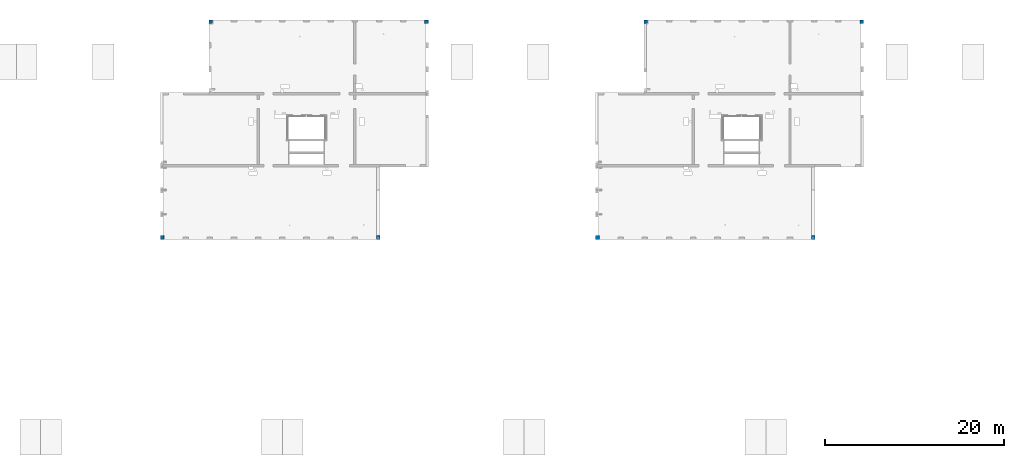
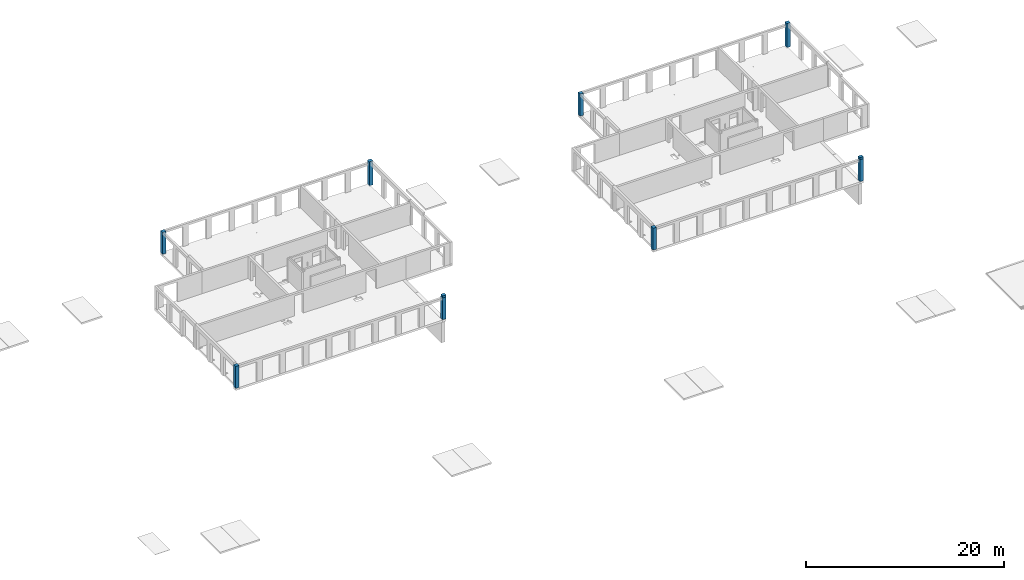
# One storey, part 1 of 14: 10 columns.
"""IFC2X3 building model written with IfcOpenShell, lengths in millimetres."""

import ifcopenshell
import ifcopenshell.guid

model = None  # the IFC model being written
_history = None  # IfcOwnerHistory: only IFC2X3 demands one
_inside = {}  # id of a spatial element -> (the spatial element, [elements in it])
_under = {}  # id of a project, library or spatial element -> (it, [spatial elements below it])
_declared = {}  # id of a project -> (the project, [libraries it declares])
_typed = {}  # id of a type object -> (the type object, [elements of that type])
_made_of = {}  # id of a material, layer set ... -> (it, [elements and type objects made of it])


def new_model(schema):
    """Start an empty IFC model of exactly this schema.

    Asked for "IFC4X3", IfcOpenShell would pick the latest addendum, in which some entities
    have other attributes; the version numbers below select the first issue.
    IFC2X3 requires an IfcOwnerHistory on every rooted entity: one is made here for all.
    """
    global model, _history
    if schema == "IFC4X3":
        model = ifcopenshell.file(schema_version=(4, 3, 0, 0))
    else:
        model = ifcopenshell.file(schema=schema)
    _inside.clear()
    _under.clear()
    _declared.clear()
    _typed.clear()
    _made_of.clear()
    _history = None
    if model.schema == "IFC2X3":
        org = make("IfcOrganization", Name="unknown")
        user = make(
            "IfcPersonAndOrganization",
            ThePerson=make("IfcPerson", FamilyName="unknown"),
            TheOrganization=org,
        )
        app = make(
            "IfcApplication",
            ApplicationDeveloper=org,
            Version="unknown",
            ApplicationFullName="unknown",
            ApplicationIdentifier="unknown",
        )
        _history = make(
            "IfcOwnerHistory",
            OwningUser=user,
            OwningApplication=app,
            ChangeAction="ADDED",
            CreationDate=0,
        )
    return model


def make(cls, **values):
    """One entity of the class cls with the attributes given. An attribute that is None is left unset."""
    return model.create_entity(
        cls, **{name: value for name, value in values.items() if value is not None}
    )


def entity(cls, *values):
    """Any entity or typed value of the class cls, its attributes in the order of the schema. None: left unset."""
    e = model.create_entity(cls)
    for i, value in enumerate(values):
        if value is not None:
            e[i] = value
    return e


def rooted(cls, **values):
    """An entity with a GlobalId (a new one), such as an element, a storey or a relation."""
    return make(cls, GlobalId=ifcopenshell.guid.new(), OwnerHistory=_history, **values)


def si_unit(unit_type, name, prefix=None):
    """IfcSIUnit, for example si_unit("LENGTHUNIT", "METRE", prefix="MILLI")."""
    return make("IfcSIUnit", UnitType=unit_type, Prefix=prefix, Name=name)


def converted_unit(unit_type, name, factor, base, dimensions=None, offset=None):
    """IfcConversionBasedUnit, such as the inch: factor (a typed value) times the base unit."""
    return make(
        "IfcConversionBasedUnit"
        if offset is None
        else "IfcConversionBasedUnitWithOffset",
        ConversionOffset=offset,
        Dimensions=None
        if dimensions is None
        else entity("IfcDimensionalExponents", *dimensions),
        UnitType=unit_type,
        Name=name,
        ConversionFactor=make(
            "IfcMeasureWithUnit", ValueComponent=factor, UnitComponent=base
        ),
    )


def derived_unit(unit_type, elements):
    """IfcDerivedUnit: a product of units, each with its exponent."""
    return make(
        "IfcDerivedUnit",
        Elements=[
            make("IfcDerivedUnitElement", Unit=unit, Exponent=power)
            for unit, power in elements
        ],
        UnitType=unit_type,
    )


def assignment(units):
    """IfcUnitAssignment: the units of a project."""
    return None if units is None else make("IfcUnitAssignment", Units=units)


def point(xyz):
    """IfcCartesianPoint."""
    return None if xyz is None else make("IfcCartesianPoint", Coordinates=xyz)


def direction(xyz):
    """IfcDirection."""
    return None if xyz is None else make("IfcDirection", DirectionRatios=xyz)


def frame(location, z_axis=None, x_axis=None):
    """IfcAxis2Placement3D, a coordinate frame: its origin and axes. An axis left out is left unset."""
    return make(
        "IfcAxis2Placement3D",
        Location=point(location),
        Axis=direction(z_axis),
        RefDirection=direction(x_axis),
    )


def frame_2d(location, x_axis=None):
    """IfcAxis2Placement2D, a coordinate frame in the plane: its origin and x axis."""
    return make(
        "IfcAxis2Placement2D", Location=point(location), RefDirection=direction(x_axis)
    )


def origin():
    """The frame at (0, 0, 0) with its axes left unset."""
    return frame((0.0, 0.0, 0.0))


def origin_2d_with_axis():
    """The frame at (0, 0) in the plane with the x axis (1, 0) written out."""
    return frame_2d((0.0, 0.0), x_axis=(1.0, 0.0))


def place(relative_to, where):
    """IfcLocalPlacement: puts the frame where relative to a parent placement (None: the world)."""
    return make(
        "IfcLocalPlacement", PlacementRelTo=relative_to, RelativePlacement=where
    )


def context(
    kind, dimensions, precision=None, world=None, true_north=None, identifier=None
):
    """IfcGeometricRepresentationContext, for example the 3D "Model" context."""
    return make(
        "IfcGeometricRepresentationContext",
        ContextIdentifier=identifier,
        ContextType=kind,
        CoordinateSpaceDimension=dimensions,
        Precision=precision,
        WorldCoordinateSystem=world,
        TrueNorth=true_north,
    )


def subcontext(parent, identifier, kind, view, scale=None):
    """IfcGeometricRepresentationSubContext, for example "Body" below "Model"."""
    return make(
        "IfcGeometricRepresentationSubContext",
        ContextIdentifier=identifier,
        ContextType=kind,
        ParentContext=parent,
        TargetScale=scale,
        TargetView=view,
    )


def project(units=None, contexts=None):
    """IfcProject with its units and contexts."""
    return rooted(
        "IfcProject",
        Name="project",
        RepresentationContexts=contexts,
        UnitsInContext=assignment(units),
    )


def spatial(cls, under=None, at=None, **own):
    """A site, building, storey or space (cls), placed at a placement, below another one or the project."""
    s = rooted(cls, ObjectPlacement=at, **own)
    if under is not None:
        _under.setdefault(under.id(), (under, []))[1].append(s)
    return s


def profile(cls, at=None, kind="AREA", **sizes):
    """A parametric profile (cls). Its sizes go by their IFC names, for example OverallWidth=200.0."""
    return make(cls, ProfileType=kind, Position=at, **sizes)


def rectangle(**sizes):
    """IfcRectangleProfileDef."""
    return profile("IfcRectangleProfileDef", **sizes)


def extrude(swept, where, along, depth):
    """IfcExtrudedAreaSolid: the profile swept, set in the frame where, extruded along a direction by depth."""
    return make(
        "IfcExtrudedAreaSolid",
        SweptArea=swept,
        Position=where,
        ExtrudedDirection=direction(along),
        Depth=depth,
    )


def shape(context_of_items, identifier, shape_type, items):
    """IfcShapeRepresentation: the items that make up one representation, for example the "Body"."""
    return make(
        "IfcShapeRepresentation",
        ContextOfItems=context_of_items,
        RepresentationIdentifier=identifier,
        RepresentationType=shape_type,
        Items=items,
    )


def source(mapping_origin, context_of_items, identifier, shape_type, items):
    """IfcRepresentationMap: a shape defined once, which mapped items show again and again."""
    return make(
        "IfcRepresentationMap",
        MappingOrigin=mapping_origin,
        MappedRepresentation=shape(context_of_items, identifier, shape_type, items),
    )


def transform(
    local_origin,
    x_axis=None,
    y_axis=None,
    z_axis=None,
    scale=None,
    scale2=None,
    scale3=None,
    uniform=True,
):
    """IfcCartesianTransformationOperator3D, or its non-uniform kind. x_axis, y_axis, z_axis: its Axis1, 2, 3."""
    if uniform:
        return make(
            "IfcCartesianTransformationOperator3D",
            Axis1=direction(x_axis),
            Axis2=direction(y_axis),
            LocalOrigin=point(local_origin),
            Scale=scale,
            Axis3=direction(z_axis),
        )
    return make(
        "IfcCartesianTransformationOperator3DnonUniform",
        Axis1=direction(x_axis),
        Axis2=direction(y_axis),
        LocalOrigin=point(local_origin),
        Scale=scale,
        Axis3=direction(z_axis),
        Scale2=scale2,
        Scale3=scale3,
    )


def mapped(mapping_source, mapping_target):
    """IfcMappedItem: shows the shape of a source again, moved by a transform."""
    return make(
        "IfcMappedItem", MappingSource=mapping_source, MappingTarget=mapping_target
    )


def material(Name=None, Category=None):
    """IfcMaterial."""
    return make("IfcMaterial", Name=Name, Category=Category)


def made_of(thing, what):
    """Note that an element or type object is made of a material, layer set ...; save() writes the relation."""
    if what is not None:
        _made_of.setdefault(what.id(), (what, []))[1].append(thing)
    return thing


def type_object(cls, material=None, **own):
    """A type object (cls), such as IfcWallType, which elements share."""
    return made_of(rooted(cls, **own), material)


def type_shapes(of_type, sources):
    """Give a type object the sources (RepresentationMaps) that its elements show as mapped items."""
    of_type.RepresentationMaps = sources


def element(
    cls,
    number,
    at=None,
    inside=None,
    cuts=None,
    type_object=None,
    material=None,
    context=None,
    identifier="Body",
    shape_type=None,
    held_by="IfcProductDefinitionShape",
    body=None,
    shapes=None,
    **own,
):
    """One element of the class cls, such as IfcWall. Its Tag is "e" and its number.

    at: its placement. inside: the storey or other place that contains it. cuts: it is an
    opening in that element (IfcRelVoidsElement). A single representation is given by context,
    identifier, shape_type and body (its items); several are given by shapes. held_by: the class
    of the entity that holds the representations. save() writes the other relations.
    """
    e = rooted(cls, Tag="e%d" % number, ObjectPlacement=at, **own)
    if body is not None:
        shapes = [shape(context, identifier, shape_type, body)]
    if shapes is not None:
        e.Representation = make(held_by, Representations=shapes)
    if inside is not None:
        _inside.setdefault(inside.id(), (inside, []))[1].append(e)
    if cuts is not None:
        rooted(
            "IfcRelVoidsElement", RelatingBuildingElement=cuts, RelatedOpeningElement=e
        )
    if type_object is not None:
        _typed.setdefault(type_object.id(), (type_object, []))[1].append(e)
    return made_of(e, material)


def aggregate(whole, parts):
    """IfcRelAggregates: a whole, such as a stair, and the parts it consists of."""
    return rooted("IfcRelAggregates", RelatingObject=whole, RelatedObjects=parts)


def save(model, path):
    """Write the relations noted so far, then the file.

    IfcRelAggregates (storeys below a building ...), IfcRelContainedInSpatialStructure (elements
    in a storey), IfcRelDefinesByType, IfcRelAssociatesMaterial and IfcRelDeclares: one each for
    every whole, place, type object, material and project.
    """
    for whole, parts in _under.values():
        aggregate(whole, parts)
    for where, things in _inside.values():
        rooted(
            "IfcRelContainedInSpatialStructure",
            RelatedElements=things,
            RelatingStructure=where,
        )
    for kind, things in _typed.values():
        rooted("IfcRelDefinesByType", RelatedObjects=things, RelatingType=kind)
    for what, things in _made_of.values():
        rooted("IfcRelAssociatesMaterial", RelatedObjects=things, RelatingMaterial=what)
    for by, libraries in _declared.values():
        rooted("IfcRelDeclares", RelatingContext=by, RelatedDefinitions=libraries)
    model.write(path)


model = new_model("IFC2X3")

# Units and contexts
model_context = context("Model", 3, precision=0.01, world=origin(), true_north=direction((6.12303176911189e-17, 1.0)))
body_context = subcontext(model_context, "Body", "Model", "MODEL_VIEW")
ifc_project = project(units=[si_unit("LENGTHUNIT", "METRE", prefix="MILLI"), si_unit("AREAUNIT", "SQUARE_METRE"), si_unit("VOLUMEUNIT", "CUBIC_METRE"), converted_unit("PLANEANGLEUNIT", "DEGREE", entity("IfcRatioMeasure", 0.0174532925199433), si_unit("PLANEANGLEUNIT", "RADIAN"), dimensions=[0, 0, 0, 0, 0, 0, 0]), si_unit("MASSUNIT", "GRAM", prefix="KILO"), derived_unit("MASSDENSITYUNIT", [(si_unit("MASSUNIT", "GRAM", prefix="KILO"), 1), (si_unit("LENGTHUNIT", "METRE"), -3)]), si_unit("TIMEUNIT", "SECOND"), si_unit("FREQUENCYUNIT", "HERTZ"), si_unit("THERMODYNAMICTEMPERATUREUNIT", "DEGREE_CELSIUS"), derived_unit("THERMALTRANSMITTANCEUNIT", [(si_unit("MASSUNIT", "GRAM", prefix="KILO"), 1), (si_unit("THERMODYNAMICTEMPERATUREUNIT", "KELVIN"), -1), (si_unit("TIMEUNIT", "SECOND"), -3)]), derived_unit("VOLUMETRICFLOWRATEUNIT", [(si_unit("LENGTHUNIT", "METRE"), 3), (si_unit("TIMEUNIT", "SECOND"), -1)]), si_unit("ELECTRICCURRENTUNIT", "AMPERE"), si_unit("ELECTRICVOLTAGEUNIT", "VOLT"), si_unit("POWERUNIT", "WATT"), si_unit("FORCEUNIT", "NEWTON", prefix="KILO"), si_unit("ILLUMINANCEUNIT", "LUX"), si_unit("LUMINOUSFLUXUNIT", "LUMEN"), si_unit("LUMINOUSINTENSITYUNIT", "CANDELA"), derived_unit("USERDEFINED", [(si_unit("MASSUNIT", "GRAM", prefix="KILO"), -1), (si_unit("LENGTHUNIT", "METRE"), -2), (si_unit("TIMEUNIT", "SECOND"), 3), (si_unit("LUMINOUSFLUXUNIT", "LUMEN"), 1)]), derived_unit("LINEARVELOCITYUNIT", [(si_unit("LENGTHUNIT", "METRE"), 1), (si_unit("TIMEUNIT", "SECOND"), -1)]), si_unit("PRESSUREUNIT", "PASCAL"), derived_unit("USERDEFINED", [(si_unit("LENGTHUNIT", "METRE"), -2), (si_unit("MASSUNIT", "GRAM", prefix="KILO"), 1), (si_unit("TIMEUNIT", "SECOND"), -2)])], contexts=[model_context])

# Site, building, storey
site_placement = place(None, origin())
site = spatial("IfcSite", under=ifc_project, at=site_placement, Name="Default", CompositionType="ELEMENT")
building_placement = place(site_placement, origin())
building = spatial("IfcBuilding", under=site, at=building_placement, Name="niet gebruiken", CompositionType="ELEMENT")
storey_placement = place(building_placement, frame((0.0, 0.0, 15570.0)))
storey = spatial("IfcBuildingStorey", under=building, at=storey_placement, Name="05 vijfde verdieping", CompositionType="ELEMENT", Elevation=15570.0)

# Columns
ifc_material = material(Name="NLRS_f2_beton prefab")
column_type_1 = type_object("IfcColumnType", Name="410x410", PredefinedType="COLUMN", material=ifc_material)
shared_shape_1 = source(origin(), body_context, "Body", "SweptSolid", [
    extrude(rectangle(XDim=410.000000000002, YDim=410.000000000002, at=frame_2d((4.33431068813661e-12, 0.0), x_axis=(1.0, 0.0))), frame((51195.0, 28961.0, 15500.0), z_axis=(0.0, 0.0, 1.0), x_axis=(0.0, -1.0, 0.0)), (0.0, 0.0, 1.0), 2699.99999999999),
])
type_shapes(column_type_1, [shared_shape_1])
column_1_placement = place(storey_placement, frame((0.0, 0.0, -15570.0)))
element("IfcColumn", 1, at=column_1_placement, inside=storey, type_object=column_type_1, material=ifc_material, Name="NLRS_28. kolom vierkant_gen1:410x410", ObjectType="410x410", context=body_context, shape_type="MappedRepresentation", body=[
    mapped(shared_shape_1, transform((0.0, 0.0, 0.0), scale=1.0)),
])
column_type_2 = type_object("IfcColumnType", Name="410x410", PredefinedType="COLUMN", material=ifc_material)
shared_shape_2 = source(origin(), body_context, "Body", "SweptSolid", [
    extrude(rectangle(XDim=410.0, YDim=410.0, at=origin_2d_with_axis()), frame((0.0, 0.0, 15500.0), z_axis=(0.0, 0.0, 1.0), x_axis=(0.0, -1.0, 0.0)), (0.0, 0.0, 1.0), 2699.99999999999),
])
type_shapes(column_type_2, [shared_shape_2])
for number, where, z_axis, x_axis, name in (
    (2, (27105.0, 28961.0, -15570.0), (0.0, 0.0, 1.0), (0.0, 1.0, 0.0), "NLRS_28. kolom vierkant_gen1:410x410"),
    (3, (75705.0, 28961.0, -15570.0), (0.0, 0.0, 1.0), (0.0, 1.0, 0.0), "NLRS_28. kolom vierkant_gen1:410x410"),
):
    element("IfcColumn", number, at=place(storey_placement, frame(where, z_axis=z_axis, x_axis=x_axis)), inside=storey, type_object=column_type_2, material=ifc_material, Name=name, ObjectType="410x410", context=body_context, shape_type="MappedRepresentation", body=[
        mapped(shared_shape_2, transform((0.0, 0.0, 0.0), scale=1.0)),
    ])
column_type_3 = type_object("IfcColumnType", Name="410x410", PredefinedType="COLUMN", material=ifc_material)
shared_shape_3 = source(origin(), body_context, "Body", "SweptSolid", [
    extrude(rectangle(XDim=410.000000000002, YDim=410.000000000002, at=origin_2d_with_axis()), frame((56595.0, 53051.0, 15500.0), z_axis=(0.0, 0.0, 1.0), x_axis=(0.0, -1.0, 0.0)), (0.0, 0.0, 1.0), 2950.0),
])
type_shapes(column_type_3, [shared_shape_3])
column_2_placement = place(storey_placement, frame((0.0, 0.0, -15570.0)))
element("IfcColumn", 4, at=column_2_placement, inside=storey, type_object=column_type_3, material=ifc_material, Name="NLRS_28. kolom vierkant_gen:410x410", ObjectType="410x410", context=body_context, shape_type="MappedRepresentation", body=[
    mapped(shared_shape_3, transform((0.0, 0.0, 0.0), scale=1.0)),
])
column_type_4 = type_object("IfcColumnType", Name="410x410", PredefinedType="COLUMN", material=ifc_material)
shared_shape_4 = source(origin(), body_context, "Body", "SweptSolid", [
    extrude(rectangle(XDim=410.000000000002, YDim=409.999999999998, at=frame_2d((8.66862137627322e-12, 0.0), x_axis=(1.0, 0.0))), frame((32505.0, 53051.0, 15500.0), z_axis=(0.0, 0.0, 1.0), x_axis=(0.0, -1.0, 0.0)), (0.0, 0.0, 1.0), 2699.99999999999),
])
type_shapes(column_type_4, [shared_shape_4])
column_3_placement = place(storey_placement, frame((0.0, 0.0, -15570.0)))
element("IfcColumn", 5, at=column_3_placement, inside=storey, type_object=column_type_4, material=ifc_material, Name="NLRS_28. kolom vierkant_gen:410x410", ObjectType="410x410", context=body_context, shape_type="MappedRepresentation", body=[
    mapped(shared_shape_4, transform((0.0, 0.0, 0.0), scale=1.0)),
])
column_type_5 = type_object("IfcColumnType", Name="410x410", PredefinedType="COLUMN", material=ifc_material)
shared_shape_5 = source(origin(), body_context, "Body", "SweptSolid", [
    extrude(rectangle(XDim=410.000000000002, YDim=409.999999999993, at=frame_2d((-4.33431068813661e-12, 0.0), x_axis=(1.0, 0.0))), frame((99795.0, 28961.0, 15500.0), z_axis=(0.0, 0.0, 1.0), x_axis=(0.0, -1.0, 0.0)), (0.0, 0.0, 1.0), 2699.99999999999),
])
type_shapes(column_type_5, [shared_shape_5])
column_4_placement = place(storey_placement, frame((0.0, 0.0, -15570.0)))
element("IfcColumn", 6, at=column_4_placement, inside=storey, type_object=column_type_5, material=ifc_material, Name="NLRS_28. kolom vierkant_gen1:410x410", ObjectType="410x410", context=body_context, shape_type="MappedRepresentation", body=[
    mapped(shared_shape_5, transform((0.0, 0.0, 0.0), scale=1.0)),
])
column_type_6 = type_object("IfcColumnType", Name="410x410", PredefinedType="COLUMN", material=ifc_material)
shared_shape_6 = source(origin(), body_context, "Body", "SweptSolid", [
    extrude(rectangle(XDim=410.000000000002, YDim=409.999999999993, at=origin_2d_with_axis()), frame((105195.0, 53051.0, 15500.0), z_axis=(0.0, 0.0, 1.0), x_axis=(0.0, -1.0, 0.0)), (0.0, 0.0, 1.0), 2950.0),
])
type_shapes(column_type_6, [shared_shape_6])
column_5_placement = place(storey_placement, frame((0.0, 0.0, -15570.0)))
element("IfcColumn", 7, at=column_5_placement, inside=storey, type_object=column_type_6, material=ifc_material, Name="NLRS_28. kolom vierkant_gen:410x410", ObjectType="410x410", context=body_context, shape_type="MappedRepresentation", body=[
    mapped(shared_shape_6, transform((0.0, 0.0, 0.0), scale=1.0)),
])
column_type_7 = type_object("IfcColumnType", Name="410x410", PredefinedType="COLUMN", material=ifc_material)
shared_shape_7 = source(origin(), body_context, "Body", "SweptSolid", [
    extrude(rectangle(XDim=410.000000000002, YDim=409.999999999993, at=origin_2d_with_axis()), frame((81105.0, 53051.0, 15500.0), z_axis=(0.0, 0.0, 1.0), x_axis=(0.0, -1.0, 0.0)), (0.0, 0.0, 1.0), 2699.99999999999),
])
type_shapes(column_type_7, [shared_shape_7])
column_6_placement = place(storey_placement, frame((0.0, 0.0, -15570.0)))
element("IfcColumn", 8, at=column_6_placement, inside=storey, type_object=column_type_7, material=ifc_material, Name="NLRS_28. kolom vierkant_gen:410x410", ObjectType="410x410", context=body_context, shape_type="MappedRepresentation", body=[
    mapped(shared_shape_7, transform((0.0, 0.0, 0.0), scale=1.0)),
])
column_type_8 = type_object("IfcColumnType", Name="410x360", PredefinedType="COLUMN", material=ifc_material)
shared_shape_8 = source(origin(), body_context, "Body", "SweptSolid", [
    extrude(rectangle(XDim=360.0, YDim=410.000000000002, at=origin_2d_with_axis()), frame((51195.0, 28936.0, 18200.0), z_axis=(0.0, 0.0, 1.0), x_axis=(0.0, -1.0, 0.0)), (0.0, 0.0, 1.0), 249.999999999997),
])
type_shapes(column_type_8, [shared_shape_8])
column_7_placement = place(storey_placement, frame((0.0, 0.0, -15570.0)))
element("IfcColumn", 9, at=column_7_placement, inside=storey, type_object=column_type_8, material=ifc_material, Name="NLRS_28. kolom vierkant_gen:410x360", ObjectType="410x360", context=body_context, shape_type="MappedRepresentation", body=[
    mapped(shared_shape_8, transform((0.0, 0.0, 0.0), scale=1.0)),
])
column_type_9 = type_object("IfcColumnType", Name="410x360", PredefinedType="COLUMN", material=ifc_material)
shared_shape_9 = source(origin(), body_context, "Body", "SweptSolid", [
    extrude(rectangle(XDim=360.0, YDim=409.999999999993, at=origin_2d_with_axis()), frame((99795.0, 28936.0, 18200.0), z_axis=(0.0, 0.0, 1.0), x_axis=(0.0, -1.0, 0.0)), (0.0, 0.0, 1.0), 249.999999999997),
])
type_shapes(column_type_9, [shared_shape_9])
column_8_placement = place(storey_placement, frame((0.0, 0.0, -15570.0)))
element("IfcColumn", 10, at=column_8_placement, inside=storey, type_object=column_type_9, material=ifc_material, Name="NLRS_28. kolom vierkant_gen:410x360", ObjectType="410x360", context=body_context, shape_type="MappedRepresentation", body=[
    mapped(shared_shape_9, transform((0.0, 0.0, 0.0), scale=1.0)),
])

save(model, "model.ifc")
